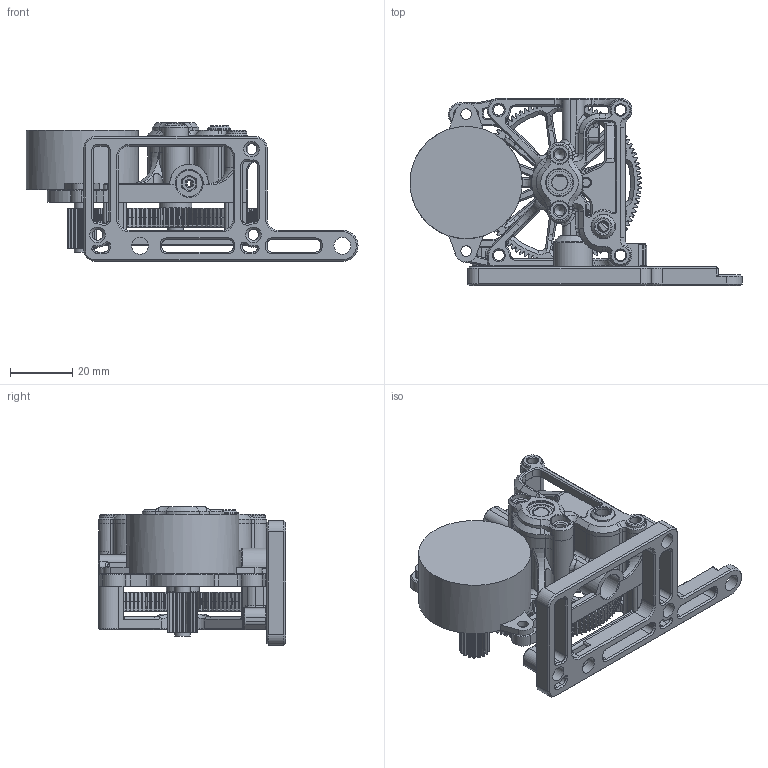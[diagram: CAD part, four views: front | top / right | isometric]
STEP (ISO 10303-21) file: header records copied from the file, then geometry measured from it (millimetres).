
FILE_DESCRIPTION(/* description */ (''),/* implementation_level */ '2;1');
FILE_NAME(/* name */ 'C:/Users/Anton/Documents/Git/geared-extruder/folded-103t/alpha2/CAD/sherpa_103_folded_a2_full_assy.step',/* time_stamp */ '2020-04-25T01:32:18+03:00',/* author */ (''),/* organization */ (''),/* preprocessor_version */ 'ST-DEVELOPER v18.1',/* originating_system */ 'Autodesk Translation Framework v9.2.0.1227',/* authorisation */ '');
FILE_SCHEMA (('AUTOMOTIVE_DESIGN { 1 0 10303 214 3 1 1 }'));
Length unit declared in the file: millimetre
Products named in the file (15): Sherpa 6:1; BMG idler; drive_core_assy v6; shaft; 7804K107; 3mm spacer; BMG drive; 103t_rounded_spur_gear; housing_core; housing_rear; idler_carrier; 17t pinion; housing_front; rappel_adapter; LDO v1
Assembly tree (15 placements, depth 3):
  Sherpa 6:1
    BMG idler
    drive_core_assy v6
      shaft
      7804K107  x2
      3mm spacer
      BMG drive
      103t_rounded_spur_gear
    housing_core
    housing_rear
    idler_carrier
    17t pinion
    housing_front
    rappel_adapter
    LDO v1
Bounding box: 106.5 x 60 x 44.5 mm (x, y, z)
Volume: 56039.2 mm3; surface area: 43129.4 mm2
Topology: 48 solids, 51 shells, 3168 faces, 8441 edges, 5294 vertices
Faces by surface type: bspline 884, cylinder 790, plane 673, cone 496, torus 196, sphere 129
Full cylindrical faces by diameter (mm): 2.5 x1, 3 x6, 3.2 x3, 3.4 x21, 4 x4, 5 x20, 5.2 x1, 5.4 x2, 5.7 x1, 6 x3, 7.385 x8, 7.5 x4, 8 x5, 8.4 x1, 8.615 x8, 9 x1, 10.5 x1, 11 x2, 11.2 x2, 16.5 x1, 36 x1
Entity records: 191040 total; most frequent: CARTESIAN_POINT 117310, ORIENTED_EDGE 16602, DIRECTION 14161, EDGE_CURVE 8301, AXIS2_PLACEMENT_3D 5577, VERTEX_POINT 5223, EDGE_LOOP 3276, CIRCLE 3201
